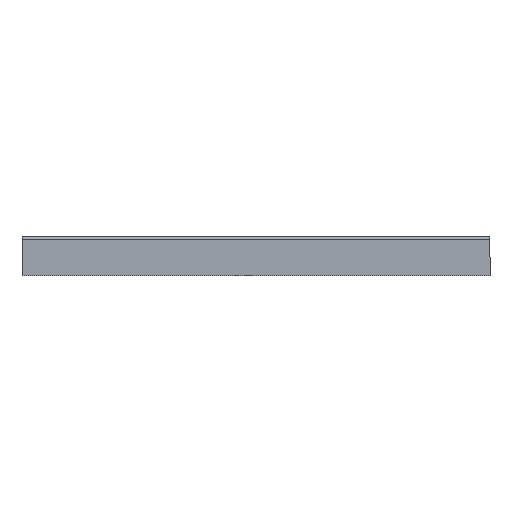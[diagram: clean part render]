
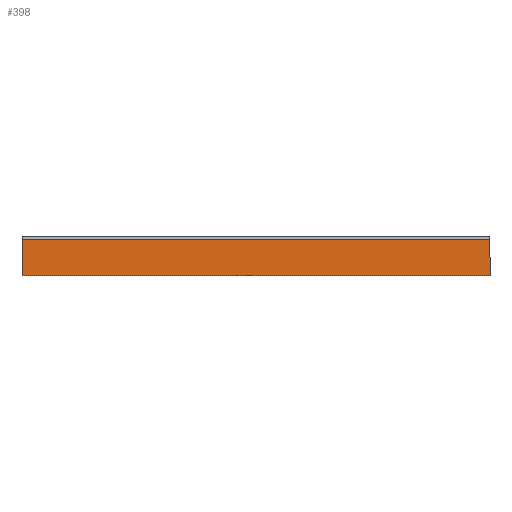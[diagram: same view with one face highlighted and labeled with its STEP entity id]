
A CAD part, left-side view. The second image highlights one B-rep face of the part: STEP entity #398.
In plain terms, the highlighted planar face has unit normal (-1, 0, 0).
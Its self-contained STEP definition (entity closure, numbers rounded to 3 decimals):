
#256 = VERTEX_POINT ( 'NONE', #292 ) ;
#276 = CARTESIAN_POINT ( 'NONE',  ( -100., 479., 37. ) ) ;
#292 = CARTESIAN_POINT ( 'NONE',  ( -100., 0., 0. ) ) ;
#302 = VERTEX_POINT ( 'NONE', #276 ) ;
#339 = PLANE ( 'NONE',  #680 ) ;
#343 = CARTESIAN_POINT ( 'NONE',  ( -100., 479., 0. ) ) ;
#356 = DIRECTION ( 'NONE',  ( -1., 0., 0. ) ) ;
#369 = DIRECTION ( 'NONE',  ( 0., 0., 1. ) ) ;
#398 = ADVANCED_FACE ( 'NONE', ( #886 ), #339, .T. ) ;
#417 = CARTESIAN_POINT ( 'NONE',  ( -100., 479., 0. ) ) ;
#440 = CARTESIAN_POINT ( 'NONE',  ( -100., 0., 37. ) ) ;
#468 = CARTESIAN_POINT ( 'NONE',  ( -100., 479., 0. ) ) ;
#474 = DIRECTION ( 'NONE',  ( 0., 0., 1. ) ) ;
#499 = CARTESIAN_POINT ( 'NONE',  ( -100., 0., 0. ) ) ;
#500 = DIRECTION ( 'NONE',  ( 0., 0., 1. ) ) ;
#517 = CARTESIAN_POINT ( 'NONE',  ( -100., 479., 37. ) ) ;
#518 = DIRECTION ( 'NONE',  ( 0., -1., 0. ) ) ;
#519 = CARTESIAN_POINT ( 'NONE',  ( -100., 479., 0. ) ) ;
#520 = DIRECTION ( 'NONE',  ( 0., -1., 0. ) ) ;
#599 = VERTEX_POINT ( 'NONE', #417 ) ;
#626 = VERTEX_POINT ( 'NONE', #440 ) ;
#671 = EDGE_CURVE ( 'NONE', #599, #302, #1359, .T. ) ;
#680 = AXIS2_PLACEMENT_3D ( 'NONE', #343, #356, #369 ) ;
#702 = EDGE_CURVE ( 'NONE', #256, #626, #1319, .T. ) ;
#715 = EDGE_CURVE ( 'NONE', #302, #626, #1219, .T. ) ;
#716 = EDGE_CURVE ( 'NONE', #599, #256, #1232, .T. ) ;
#886 = FACE_OUTER_BOUND ( 'NONE', #978, .T. ) ;
#978 = EDGE_LOOP ( 'NONE', ( #1037, #1038, #1039, #1040 ) ) ;
#1037 = ORIENTED_EDGE ( 'NONE', *, *, #702, .T. ) ;
#1038 = ORIENTED_EDGE ( 'NONE', *, *, #715, .F. ) ;
#1039 = ORIENTED_EDGE ( 'NONE', *, *, #671, .F. ) ;
#1040 = ORIENTED_EDGE ( 'NONE', *, *, #716, .T. ) ;
#1219 = LINE ( 'NONE', #517, #1220 ) ;
#1220 = VECTOR ( 'NONE', #518, 1000. ) ;
#1232 = LINE ( 'NONE', #519, #1250 ) ;
#1250 = VECTOR ( 'NONE', #520, 1000. ) ;
#1284 = VECTOR ( 'NONE', #474, 1000. ) ;
#1319 = LINE ( 'NONE', #499, #1328 ) ;
#1328 = VECTOR ( 'NONE', #500, 1000. ) ;
#1359 = LINE ( 'NONE', #468, #1284 ) ;
